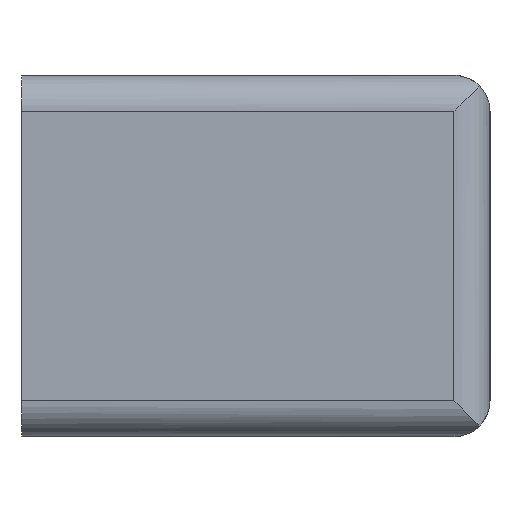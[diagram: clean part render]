
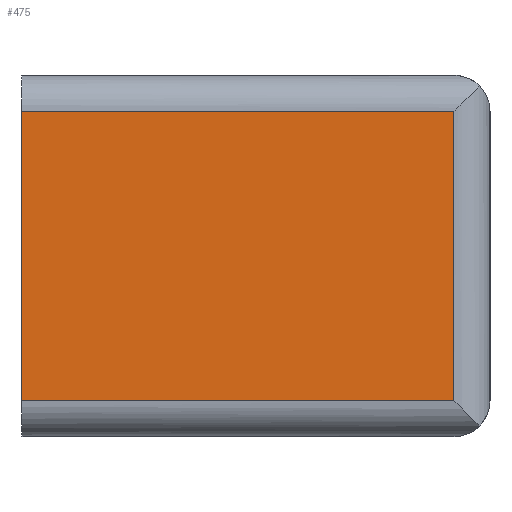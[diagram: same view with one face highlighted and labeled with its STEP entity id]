
A CAD part, left-side view. The second image highlights one B-rep face of the part: STEP entity #475.
In plain terms, the highlighted planar face has unit normal (-1, 0, 0).
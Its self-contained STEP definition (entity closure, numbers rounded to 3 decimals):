
#179 = EDGE_CURVE( '', #437, #321, #501, .T. );
#259 = VERTEX_POINT( '', #587 );
#299 = EDGE_CURVE( '', #259, #321, #630, .T. );
#321 = VERTEX_POINT( '', #654 );
#339 = VERTEX_POINT( '', #673 );
#437 = VERTEX_POINT( '', #787 );
#443 = EDGE_CURVE( '', #339, #259, #793, .T. );
#449 = EDGE_CURVE( '', #339, #437, #799, .T. );
#475 = ADVANCED_FACE( '', ( #827 ), #828, .T. );
#501 = LINE( '', #848, #849 );
#587 = CARTESIAN_POINT( '', ( -5., -23.9, -8. ) );
#630 = LINE( '', #1024, #1025 );
#654 = CARTESIAN_POINT( '', ( -5., 0., -8. ) );
#673 = CARTESIAN_POINT( '', ( -5., -23.9, 8. ) );
#787 = CARTESIAN_POINT( '', ( -5., 0., 8. ) );
#793 = LINE( '', #1236, #1237 );
#799 = LINE( '', #1244, #1245 );
#827 = FACE_OUTER_BOUND( '', #1283, .T. );
#828 = PLANE( '', #1284 );
#848 = CARTESIAN_POINT( '', ( -5., 0., 10. ) );
#849 = VECTOR( '', #1297, 1. );
#1024 = CARTESIAN_POINT( '', ( -5., -11.95, -8. ) );
#1025 = VECTOR( '', #1441, 1. );
#1236 = CARTESIAN_POINT( '', ( -5., -23.9, 10. ) );
#1237 = VECTOR( '', #1648, 1. );
#1244 = CARTESIAN_POINT( '', ( -5., -11.95, 8. ) );
#1245 = VECTOR( '', #1649, 1. );
#1283 = EDGE_LOOP( '', ( #1684, #1685, #1686, #1687 ) );
#1284 = AXIS2_PLACEMENT_3D( '', #1688, #1689, #1690 );
#1297 = DIRECTION( '', ( 0., 0., -1. ) );
#1441 = DIRECTION( '', ( 0., 1., 0. ) );
#1648 = DIRECTION( '', ( 0., 0., -1. ) );
#1649 = DIRECTION( '', ( 0., 1., 0. ) );
#1684 = ORIENTED_EDGE( '', *, *, #299, .F. );
#1685 = ORIENTED_EDGE( '', *, *, #443, .F. );
#1686 = ORIENTED_EDGE( '', *, *, #449, .T. );
#1687 = ORIENTED_EDGE( '', *, *, #179, .T. );
#1688 = CARTESIAN_POINT( '', ( -5., 0., 10. ) );
#1689 = DIRECTION( '', ( -1., 0., 0. ) );
#1690 = DIRECTION( '', ( 0., 1., 0. ) );
